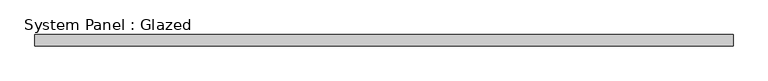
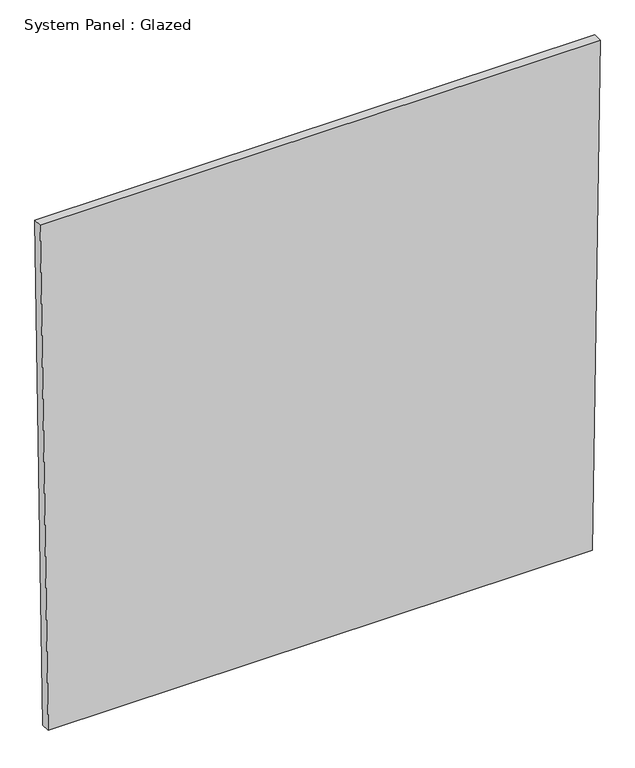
"""IFC4 building model written with IfcOpenShell, lengths in millimetres: plate geometry, System Panel : Glazed."""

from ifc_helpers import new_model, si_unit, frame, origin, place, context, project, spatial, polyline, outline, extrude, source, transform, mapped, element, save


def system_panel_glazed_0585b5a7(model_context):
    return source(origin(), model_context, "Body", "SweptSolid", [
        extrude(outline(polyline([(0.0, -760.1033121), (0.0, 760.1033056), (1499.8328718, 782.4943061), (1499.8328718, -782.4943061), (0.0, -760.1033121)])), frame((0.0, -49.5, 0.0), z_axis=(0.0, 1.0, 0.0), x_axis=(0.0, 0.0, 1.0)), (0.0, 0.0, 1.0), 25.0),
    ])


if __name__ == "__main__":
    model = new_model("IFC4")
    model_context = context("Model", 3, world=origin())
    ifc_project = project(units=[si_unit("LENGTHUNIT", "METRE", prefix="MILLI")], contexts=[model_context])
    site = spatial("IfcSite", under=ifc_project)
    building = spatial("IfcBuilding", under=site)
    placement = place(None, origin())
    system_panel_glazed_shape = system_panel_glazed_0585b5a7(model_context)
    element("IfcPlate", 1, ObjectType="System Panel : Glazed", at=placement, inside=building, context=model_context, shape_type="MappedRepresentation", body=[
        mapped(system_panel_glazed_shape, transform((0.0, 0.0, 0.0), x_axis=(1.0, 0.0, 0.0), y_axis=(0.0, 1.0, 0.0), z_axis=(0.0, 0.0, 1.0))),
    ])
    save(model, "model.ifc")
